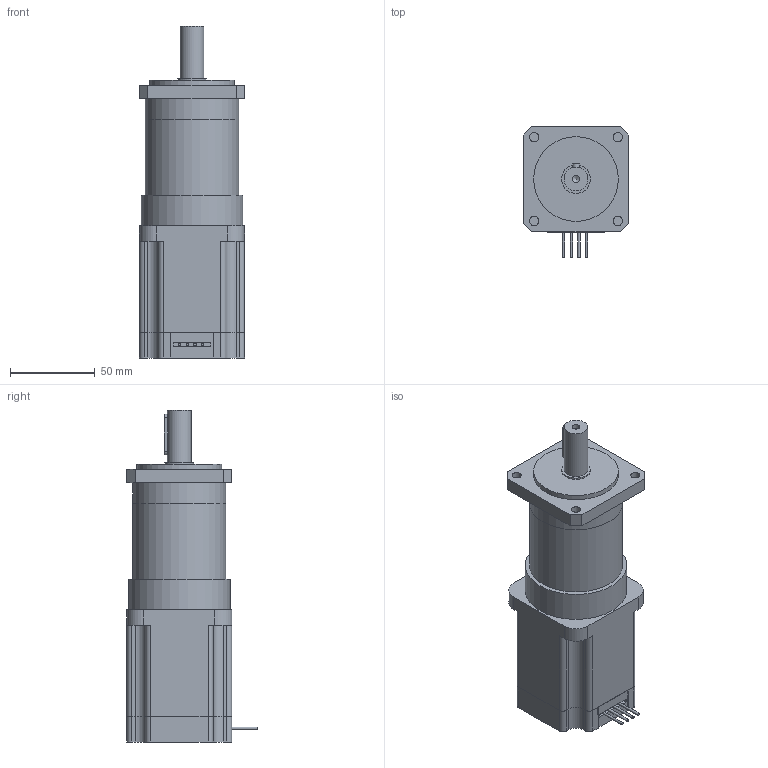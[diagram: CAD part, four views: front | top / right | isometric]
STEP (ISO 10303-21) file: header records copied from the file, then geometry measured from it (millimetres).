
FILE_DESCRIPTION(/* description */ (''),/* implementation_level */ '2;1');
FILE_NAME(/* name */ '62PG003-D42-0478.stp',/* time_stamp */ '2018-08-27T09:31:27+08:00',/* author */ (''),/* organization */ (''),/* preprocessor_version */ 'ST-DEVELOPER v11',/* originating_system */ 'SIEMENS UGS NX 6.0',/* authorisation */ '');
FILE_SCHEMA (('CONFIG_CONTROL_DESIGN'));
Length unit declared in the file: millimetre
Products named in the file (1): 62PG003-D42-0478
Bounding box: 62 x 77 x 196 mm (x, y, z)
Volume: 493480.7 mm3; surface area: 57705.8 mm2
Topology: 3 solids, 3 shells, 110 faces, 281 edges, 189 vertices
Faces by surface type: plane 64, cylinder 45, cone 1
Full cylindrical faces by diameter (mm): 1.5 x4, 4.5 x1, 5.5 x4, 14 x1, 17 x1, 50 x1, 55 x2, 60 x1
Entity records: 3368 total; most frequent: CARTESIAN_POINT 612, DIRECTION 566, ORIENTED_EDGE 516, EDGE_CURVE 258, AXIS2_PLACEMENT_3D 199, VERTEX_POINT 183, LINE 168, VECTOR 168
